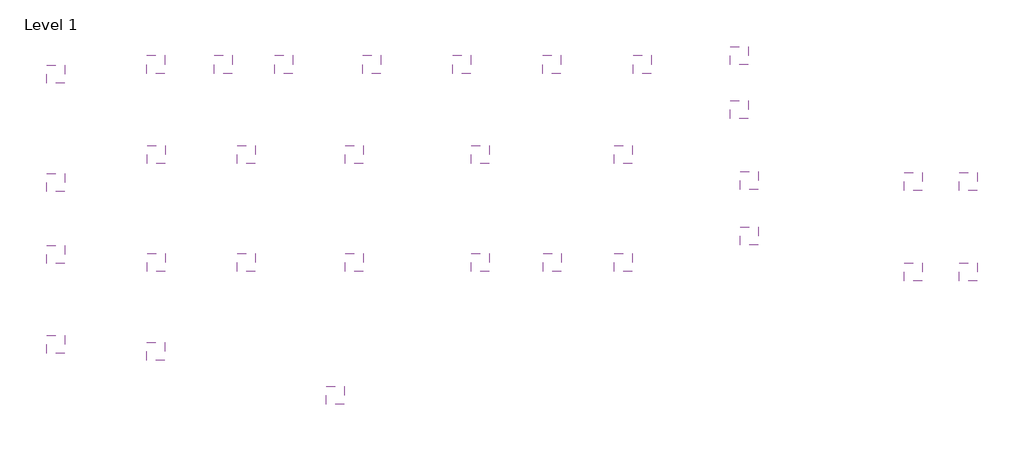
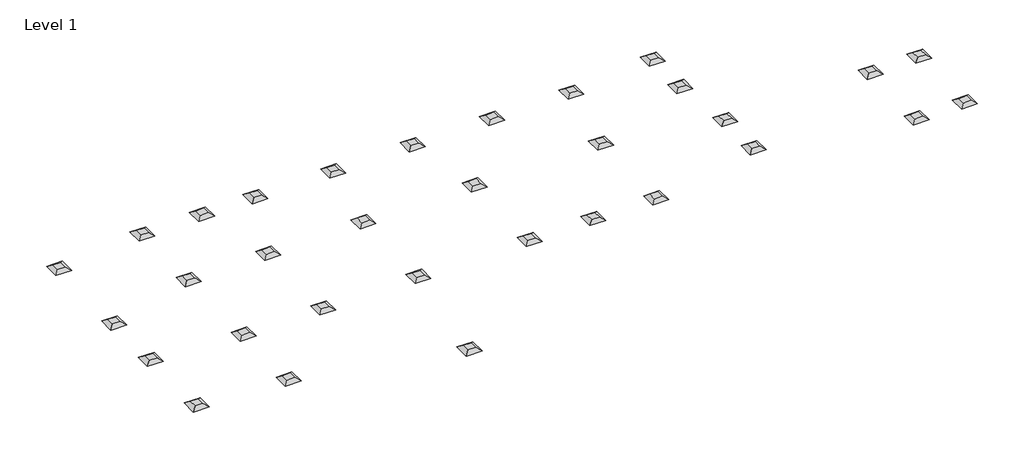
# One storey: 32 air terminals.
"""IFC4 building model written with IfcOpenShell, lengths in millimetres."""

from ifc_helpers import new_model, si_unit, origin, place, context, project, spatial, transform, mapped, element, save
from components import return_diffuser_hosted_workplane_based_return_diffuser_7695a80a

model = new_model("IFC4")

# Units and contexts
model_context = context("Model", 3, world=origin())
ifc_project = project(units=[si_unit("LENGTHUNIT", "METRE", prefix="MILLI")], contexts=[model_context])

# Site, building, storey
site = spatial("IfcSite", under=ifc_project)
building = spatial("IfcBuilding", under=site)
storey = spatial("IfcBuildingStorey", under=building, Name="Level 1", Elevation=0.0)

# Air terminals
placement = place(None, origin())
return_diffuser_hosted_workplane_based_return_diffuser_shape = return_diffuser_hosted_workplane_based_return_diffuser_7695a80a(model_context)
element("IfcAirTerminal", 1, ObjectType="Return Diffuser - Hosted : Workplane-based Return Diffuser", at=placement, inside=storey, context=model_context, shape_type="MappedRepresentation", body=[
    mapped(return_diffuser_hosted_workplane_based_return_diffuser_shape, transform((-21916.7339359, 10483.8984503, 2514.6), x_axis=(0.0, -1.0, 0.0), y_axis=(-1.0, 0.0, 0.0), z_axis=(0.0, 0.0, -1.0))),
])
element("IfcAirTerminal", 2, ObjectType="Return Diffuser - Hosted : Workplane-based Return Diffuser", at=placement, inside=storey, context=model_context, shape_type="MappedRepresentation", body=[
    mapped(return_diffuser_hosted_workplane_based_return_diffuser_shape, transform((-21916.7339359, 769.7410539, 2514.6), x_axis=(0.0, -1.0, 0.0), y_axis=(-1.0, 0.0, 0.0), z_axis=(0.0, 0.0, -1.0))),
])
element("IfcAirTerminal", 3, ObjectType="Return Diffuser - Hosted : Workplane-based Return Diffuser", at=placement, inside=storey, context=model_context, shape_type="MappedRepresentation", body=[
    mapped(return_diffuser_hosted_workplane_based_return_diffuser_shape, transform((5588.5753749, 6510.6674075, 2514.6), x_axis=(0.0, -1.0, 0.0), y_axis=(-1.0, 0.0, 0.0), z_axis=(0.0, 0.0, -1.0))),
])
element("IfcAirTerminal", 4, ObjectType="Return Diffuser - Hosted : Workplane-based Return Diffuser", at=placement, inside=storey, context=model_context, shape_type="MappedRepresentation", body=[
    mapped(return_diffuser_hosted_workplane_based_return_diffuser_shape, transform((-19630.7339359, 10483.8984503, 2514.6), x_axis=(0.0, -1.0, 0.0), y_axis=(-1.0, 0.0, 0.0), z_axis=(0.0, 0.0, -1.0))),
])
element("IfcAirTerminal", 5, ObjectType="Return Diffuser - Hosted : Workplane-based Return Diffuser", at=placement, inside=storey, context=model_context, shape_type="MappedRepresentation", body=[
    mapped(return_diffuser_hosted_workplane_based_return_diffuser_shape, transform((-8496.7251397, 3775.2315553, 2514.6), x_axis=(-1.0, 0.0, 0.0), y_axis=(0.0, 1.0, 0.0), z_axis=(0.0, 0.0, -1.0))),
])
element("IfcAirTerminal", 6, ObjectType="Supply Diffuser - Hosted : Workplane-based Supply Diffuser", at=placement, inside=storey, context=model_context, shape_type="MappedRepresentation", body=[
    mapped(return_diffuser_hosted_workplane_based_return_diffuser_shape, transform((-25309.6859678, 10145.7709948, 2514.6), x_axis=(-1.0, 0.0, 0.0), y_axis=(0.0, 1.0, 0.0), z_axis=(0.0, 0.0, -1.0))),
])
element("IfcAirTerminal", 7, ObjectType="Supply Diffuser - Hosted : Workplane-based Supply Diffuser", at=placement, inside=storey, context=model_context, shape_type="MappedRepresentation", body=[
    mapped(return_diffuser_hosted_workplane_based_return_diffuser_shape, transform((-25309.6859678, 6488.1709948, 2514.6), x_axis=(-1.0, 0.0, 0.0), y_axis=(0.0, 1.0, 0.0), z_axis=(0.0, 0.0, -1.0))),
])
element("IfcAirTerminal", 8, ObjectType="Supply Diffuser - Hosted : Workplane-based Supply Diffuser", at=placement, inside=storey, context=model_context, shape_type="MappedRepresentation", body=[
    mapped(return_diffuser_hosted_workplane_based_return_diffuser_shape, transform((-25309.6859678, 4049.7709948, 2514.6), x_axis=(-1.0, 0.0, 0.0), y_axis=(0.0, 1.0, 0.0), z_axis=(0.0, 0.0, -1.0))),
])
element("IfcAirTerminal", 9, ObjectType="Supply Diffuser - Hosted : Workplane-based Supply Diffuser", at=placement, inside=storey, context=model_context, shape_type="MappedRepresentation", body=[
    mapped(return_diffuser_hosted_workplane_based_return_diffuser_shape, transform((-25309.6859678, 1001.7709948, 2514.6), x_axis=(-1.0, 0.0, 0.0), y_axis=(0.0, 1.0, 0.0), z_axis=(0.0, 0.0, -1.0))),
])
element("IfcAirTerminal", 10, ObjectType="Supply Diffuser - Hosted : Workplane-based Supply Diffuser", at=placement, inside=storey, context=model_context, shape_type="MappedRepresentation", body=[
    mapped(return_diffuser_hosted_workplane_based_return_diffuser_shape, transform((-14603.2525169, 10483.8984503, 2514.6), x_axis=(0.0, -1.0, 0.0), y_axis=(-1.0, 0.0, 0.0), z_axis=(0.0, 0.0, -1.0))),
])
element("IfcAirTerminal", 11, ObjectType="Supply Diffuser - Hosted : Workplane-based Supply Diffuser", at=placement, inside=storey, context=model_context, shape_type="MappedRepresentation", body=[
    mapped(return_diffuser_hosted_workplane_based_return_diffuser_shape, transform((-18859.9251397, 7432.8315553, 2514.6), x_axis=(-1.0, 0.0, 0.0), y_axis=(0.0, 1.0, 0.0), z_axis=(0.0, 0.0, -1.0))),
])
element("IfcAirTerminal", 12, ObjectType="Supply Diffuser - Hosted : Workplane-based Supply Diffuser", at=placement, inside=storey, context=model_context, shape_type="MappedRepresentation", body=[
    mapped(return_diffuser_hosted_workplane_based_return_diffuser_shape, transform((-15202.3251397, 7432.8315553, 2514.6), x_axis=(-1.0, 0.0, 0.0), y_axis=(0.0, 1.0, 0.0), z_axis=(0.0, 0.0, -1.0))),
])
element("IfcAirTerminal", 13, ObjectType="Supply Diffuser - Hosted : Workplane-based Supply Diffuser", at=placement, inside=storey, context=model_context, shape_type="MappedRepresentation", body=[
    mapped(return_diffuser_hosted_workplane_based_return_diffuser_shape, transform((-10935.1251397, 7432.8315553, 2514.6), x_axis=(-1.0, 0.0, 0.0), y_axis=(0.0, 1.0, 0.0), z_axis=(0.0, 0.0, -1.0))),
])
element("IfcAirTerminal", 14, ObjectType="Supply Diffuser - Hosted : Workplane-based Supply Diffuser", at=placement, inside=storey, context=model_context, shape_type="MappedRepresentation", body=[
    mapped(return_diffuser_hosted_workplane_based_return_diffuser_shape, transform((-6087.0836003, 7432.8315553, 2514.6), x_axis=(-1.0, 0.0, 0.0), y_axis=(0.0, 1.0, 0.0), z_axis=(0.0, 0.0, -1.0))),
])
element("IfcAirTerminal", 15, ObjectType="Supply Diffuser - Hosted : Workplane-based Supply Diffuser", at=placement, inside=storey, context=model_context, shape_type="MappedRepresentation", body=[
    mapped(return_diffuser_hosted_workplane_based_return_diffuser_shape, transform((-18859.9251397, 3775.2315553, 2514.6), x_axis=(-1.0, 0.0, 0.0), y_axis=(0.0, 1.0, 0.0), z_axis=(0.0, 0.0, -1.0))),
])
element("IfcAirTerminal", 16, ObjectType="Supply Diffuser - Hosted : Workplane-based Supply Diffuser", at=placement, inside=storey, context=model_context, shape_type="MappedRepresentation", body=[
    mapped(return_diffuser_hosted_workplane_based_return_diffuser_shape, transform((-15202.3251397, 3775.2315553, 2514.6), x_axis=(-1.0, 0.0, 0.0), y_axis=(0.0, 1.0, 0.0), z_axis=(0.0, 0.0, -1.0))),
])
element("IfcAirTerminal", 17, ObjectType="Supply Diffuser - Hosted : Workplane-based Supply Diffuser", at=placement, inside=storey, context=model_context, shape_type="MappedRepresentation", body=[
    mapped(return_diffuser_hosted_workplane_based_return_diffuser_shape, transform((-10935.1251397, 3775.2315553, 2514.6), x_axis=(-1.0, 0.0, 0.0), y_axis=(0.0, 1.0, 0.0), z_axis=(0.0, 0.0, -1.0))),
])
element("IfcAirTerminal", 18, ObjectType="Supply Diffuser - Hosted : Workplane-based Supply Diffuser", at=placement, inside=storey, context=model_context, shape_type="MappedRepresentation", body=[
    mapped(return_diffuser_hosted_workplane_based_return_diffuser_shape, transform((-6087.0836003, 3775.2315553, 2514.6), x_axis=(-1.0, 0.0, 0.0), y_axis=(0.0, 1.0, 0.0), z_axis=(0.0, 0.0, -1.0))),
])
element("IfcAirTerminal", 19, ObjectType="Supply Diffuser - Hosted : Workplane-based Supply Diffuser", at=placement, inside=storey, context=model_context, shape_type="MappedRepresentation", body=[
    mapped(return_diffuser_hosted_workplane_based_return_diffuser_shape, transform((-21907.9251397, 7432.8315553, 2514.6), x_axis=(-1.0, 0.0, 0.0), y_axis=(0.0, 1.0, 0.0), z_axis=(0.0, 0.0, -1.0))),
])
element("IfcAirTerminal", 20, ObjectType="Supply Diffuser - Hosted : Workplane-based Supply Diffuser", at=placement, inside=storey, context=model_context, shape_type="MappedRepresentation", body=[
    mapped(return_diffuser_hosted_workplane_based_return_diffuser_shape, transform((-21907.9251397, 3775.2315553, 2514.6), x_axis=(-1.0, 0.0, 0.0), y_axis=(0.0, 1.0, 0.0), z_axis=(0.0, 0.0, -1.0))),
])
element("IfcAirTerminal", 21, ObjectType="Supply Diffuser - Hosted : Workplane-based Supply Diffuser", at=placement, inside=storey, context=model_context, shape_type="MappedRepresentation", body=[
    mapped(return_diffuser_hosted_workplane_based_return_diffuser_shape, transform((-11555.2525169, 10483.8984503, 2514.6), x_axis=(0.0, -1.0, 0.0), y_axis=(-1.0, 0.0, 0.0), z_axis=(0.0, 0.0, -1.0))),
])
element("IfcAirTerminal", 22, ObjectType="Supply Diffuser - Hosted : Workplane-based Supply Diffuser", at=placement, inside=storey, context=model_context, shape_type="MappedRepresentation", body=[
    mapped(return_diffuser_hosted_workplane_based_return_diffuser_shape, transform((-8507.2525169, 10483.8984503, 2514.6), x_axis=(0.0, -1.0, 0.0), y_axis=(-1.0, 0.0, 0.0), z_axis=(0.0, 0.0, -1.0))),
])
element("IfcAirTerminal", 23, ObjectType="Supply Diffuser - Hosted : Workplane-based Supply Diffuser", at=placement, inside=storey, context=model_context, shape_type="MappedRepresentation", body=[
    mapped(return_diffuser_hosted_workplane_based_return_diffuser_shape, transform((-5459.2525169, 10483.8984503, 2514.6), x_axis=(0.0, -1.0, 0.0), y_axis=(-1.0, 0.0, 0.0), z_axis=(0.0, 0.0, -1.0))),
])
element("IfcAirTerminal", 24, ObjectType="Supply Diffuser - Hosted : Workplane-based Supply Diffuser", at=placement, inside=storey, context=model_context, shape_type="MappedRepresentation", body=[
    mapped(return_diffuser_hosted_workplane_based_return_diffuser_shape, transform((-15840.2163074, -721.0697729, 2514.6), x_axis=(-1.0, 0.0, 0.0), y_axis=(0.0, 1.0, 0.0), z_axis=(0.0, 0.0, -1.0))),
])
element("IfcAirTerminal", 25, ObjectType="Supply Diffuser - Hosted : Workplane-based Supply Diffuser", at=placement, inside=storey, context=model_context, shape_type="MappedRepresentation", body=[
    mapped(return_diffuser_hosted_workplane_based_return_diffuser_shape, transform((-2169.6824517, 10786.7852219, 2514.6), x_axis=(0.0, -1.0, 0.0), y_axis=(-1.0, 0.0, 0.0), z_axis=(0.0, 0.0, -1.0))),
])
element("IfcAirTerminal", 26, ObjectType="Supply Diffuser - Hosted : Workplane-based Supply Diffuser", at=placement, inside=storey, context=model_context, shape_type="MappedRepresentation", body=[
    mapped(return_diffuser_hosted_workplane_based_return_diffuser_shape, transform((-2169.6824517, 8957.9852219, 2514.6), x_axis=(0.0, -1.0, 0.0), y_axis=(-1.0, 0.0, 0.0), z_axis=(0.0, 0.0, -1.0))),
])
element("IfcAirTerminal", 27, ObjectType="Supply Diffuser - Hosted : Workplane-based Supply Diffuser", at=placement, inside=storey, context=model_context, shape_type="MappedRepresentation", body=[
    mapped(return_diffuser_hosted_workplane_based_return_diffuser_shape, transform((-1831.3915429, 6549.6522814, 2514.6), x_axis=(-1.0, 0.0, 0.0), y_axis=(0.0, 1.0, 0.0), z_axis=(0.0, 0.0, -1.0))),
])
element("IfcAirTerminal", 28, ObjectType="Supply Diffuser - Hosted : Workplane-based Supply Diffuser", at=placement, inside=storey, context=model_context, shape_type="MappedRepresentation", body=[
    mapped(return_diffuser_hosted_workplane_based_return_diffuser_shape, transform((-1831.3915429, 4667.5318675, 2514.6), x_axis=(-1.0, 0.0, 0.0), y_axis=(0.0, 1.0, 0.0), z_axis=(0.0, 0.0, -1.0))),
])
element("IfcAirTerminal", 29, ObjectType="Supply Diffuser - Hosted : Workplane-based Supply Diffuser", at=placement, inside=storey, context=model_context, shape_type="MappedRepresentation", body=[
    mapped(return_diffuser_hosted_workplane_based_return_diffuser_shape, transform((3722.2049459, 6509.0041218, 2514.6), x_axis=(-1.0, 0.0, 0.0), y_axis=(0.0, 1.0, 0.0), z_axis=(0.0, 0.0, -1.0))),
])
element("IfcAirTerminal", 30, ObjectType="Supply Diffuser - Hosted : Workplane-based Supply Diffuser", at=placement, inside=storey, context=model_context, shape_type="MappedRepresentation", body=[
    mapped(return_diffuser_hosted_workplane_based_return_diffuser_shape, transform((3722.2049459, 3455.2867041, 2514.6), x_axis=(-1.0, 0.0, 0.0), y_axis=(0.0, 1.0, 0.0), z_axis=(0.0, 0.0, -1.0))),
])
element("IfcAirTerminal", 31, ObjectType="Supply Diffuser - Hosted : Workplane-based Supply Diffuser", at=placement, inside=storey, context=model_context, shape_type="MappedRepresentation", body=[
    mapped(return_diffuser_hosted_workplane_based_return_diffuser_shape, transform((5576.4253448, 3455.2867041, 2514.6), x_axis=(-1.0, 0.0, 0.0), y_axis=(0.0, 1.0, 0.0), z_axis=(0.0, 0.0, -1.0))),
])
element("IfcAirTerminal", 32, ObjectType="Supply Diffuser - Hosted : Workplane-based Supply Diffuser", at=placement, inside=storey, context=model_context, shape_type="MappedRepresentation", body=[
    mapped(return_diffuser_hosted_workplane_based_return_diffuser_shape, transform((-17582.7136447, 10483.8984503, 2514.6), x_axis=(0.0, -1.0, 0.0), y_axis=(-1.0, 0.0, 0.0), z_axis=(0.0, 0.0, -1.0))),
])

save(model, "model.ifc")
